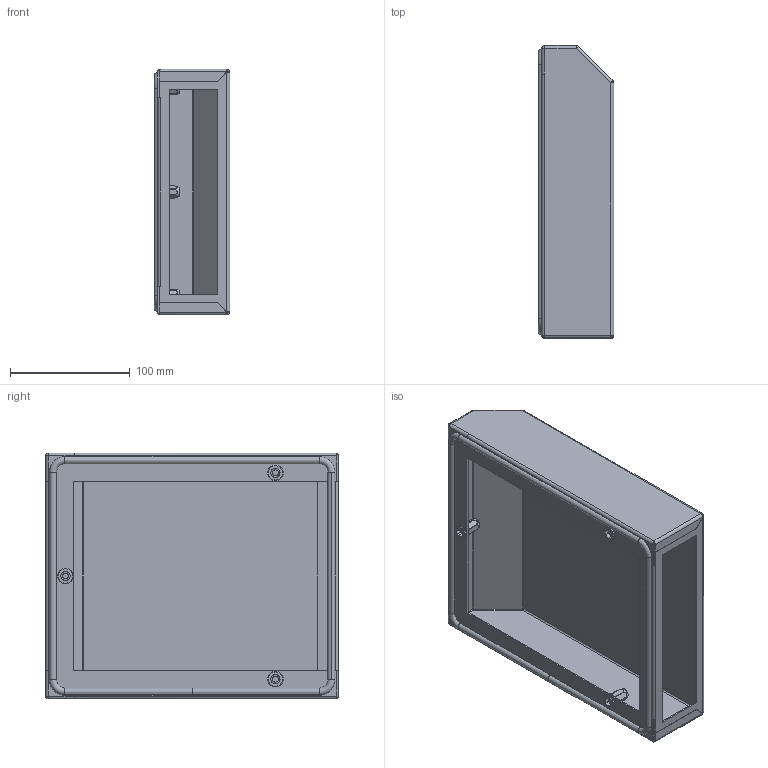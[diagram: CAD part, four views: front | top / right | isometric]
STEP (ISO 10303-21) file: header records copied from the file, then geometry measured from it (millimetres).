
FILE_DESCRIPTION (( 'STEP AP203' ), '1' );
FILE_NAME ('R 12 FA S 01.000 ﾑﾁ ﾊ鮻 鈞隆 蓁 粢炅齏.STEP', '2021-11-12T07:51:53', ( '' ), ( '' ), 'SwSTEP 2.0', 'SolidWorks 2018', '' );
FILE_SCHEMA (( 'CONFIG_CONTROL_DESIGN' ));
Length unit declared in the file: millimetre
Products named in the file (4): Óïëîòíåíèå ñèëèêîíîâîå; R 12 FA S 00.001 ﾊ鮻 鈞隆 蓁 粢炅齏_EPLAN; R 12 FA S 01.000 ﾑﾁ ﾊ鮻 鈞隆 蓁 粢炅齏; Çàêëåïêà íåðæ. âûòÿæíàÿ ðåçüáîâàÿ øåñòèãðàííàÿ çàêðûòàÿ Ì6_1,4
Assembly tree (5 placements, depth 2):
  R 12 FA S 01.000 ﾑﾁ ﾊ鮻 鈞隆 蓁 粢炅齏
    R 12 FA S 00.001 ﾊ鮻 鈞隆 蓁 粢炅齏_EPLAN
    Óïëîòíåíèå ñèëèêîíîâîå
    Çàêëåïêà íåðæ. âûòÿæíàÿ ðåçüáîâàÿ øåñòèãðàííàÿ çàêðûòàÿ Ì6_1,4  x3
Bounding box: 63.12 x 243.92 x 205 mm (x, y, z)
Volume: 143770.9 mm3; surface area: 231443.7 mm2
Topology: 5 solids, 5 shells, 467 faces, 1073 edges, 622 vertices
Faces by surface type: plane 149, bspline 116, cylinder 114, torus 52, sphere 24, cone 12
Entity records: 9582 total; most frequent: CARTESIAN_POINT 3592, ORIENTED_EDGE 1178, DIRECTION 1110, EDGE_CURVE 589, AXIS2_PLACEMENT_3D 398, VERTEX_POINT 342, LINE 314, VECTOR 314
